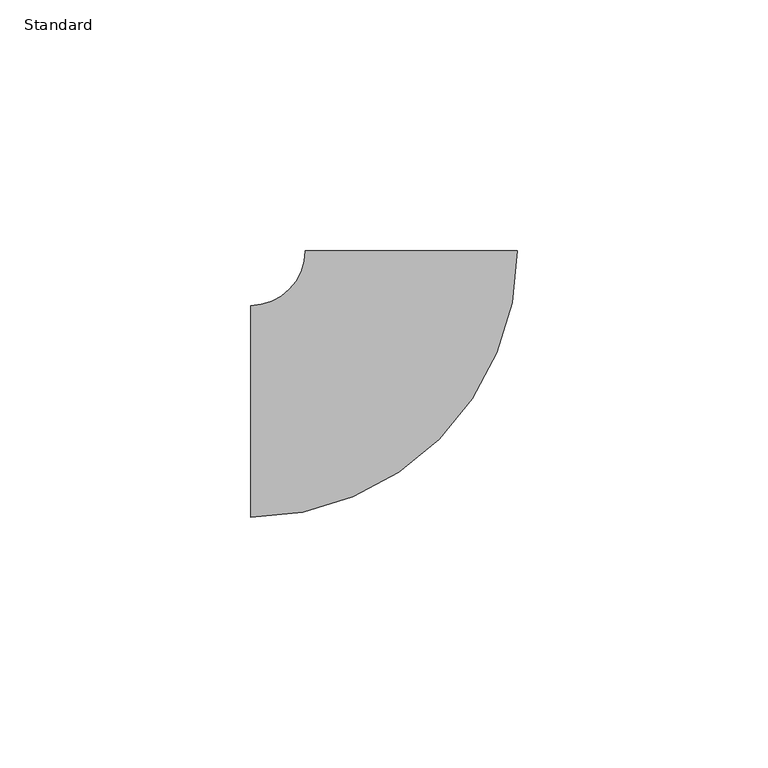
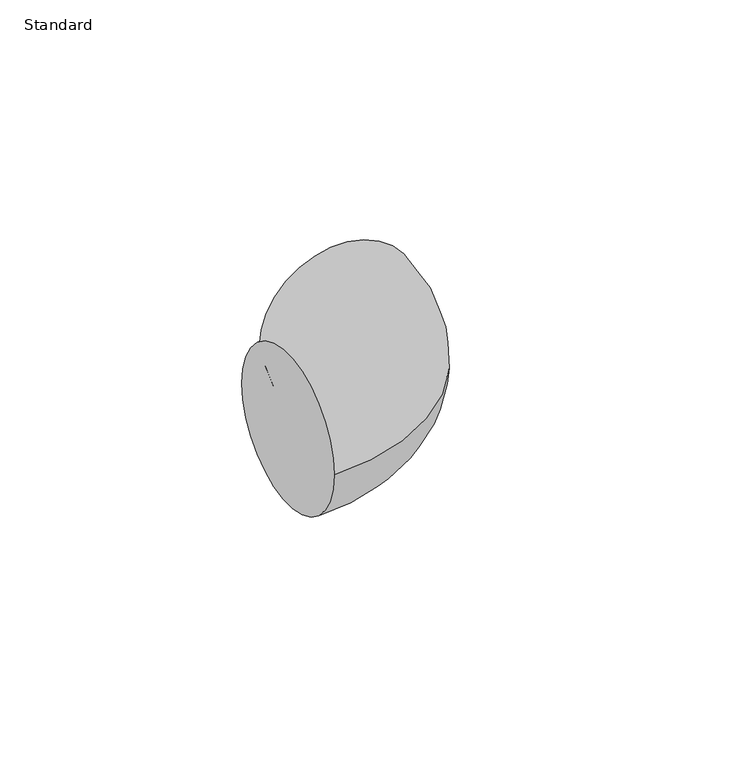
"""IFC4 building model written with IfcOpenShell, lengths in millimetres: pipe fitting geometry, Coude - Générique : Standard."""

import ifcopenshell
import ifcopenshell.guid

model = None  # the IFC model being written
_history = None  # IfcOwnerHistory: only IFC2X3 demands one
_inside = {}  # id of a spatial element -> (the spatial element, [elements in it])
_under = {}  # id of a project, library or spatial element -> (it, [spatial elements below it])
_declared = {}  # id of a project -> (the project, [libraries it declares])
_typed = {}  # id of a type object -> (the type object, [elements of that type])
_made_of = {}  # id of a material, layer set ... -> (it, [elements and type objects made of it])


def new_model(schema):
    """Start an empty IFC model of exactly this schema.

    Asked for "IFC4X3", IfcOpenShell would pick the latest addendum, in which some entities
    have other attributes; the version numbers below select the first issue.
    IFC2X3 requires an IfcOwnerHistory on every rooted entity: one is made here for all.
    """
    global model, _history
    if schema == "IFC4X3":
        model = ifcopenshell.file(schema_version=(4, 3, 0, 0))
    else:
        model = ifcopenshell.file(schema=schema)
    _inside.clear()
    _under.clear()
    _declared.clear()
    _typed.clear()
    _made_of.clear()
    _history = None
    if model.schema == "IFC2X3":
        org = make("IfcOrganization", Name="unknown")
        user = make(
            "IfcPersonAndOrganization",
            ThePerson=make("IfcPerson", FamilyName="unknown"),
            TheOrganization=org,
        )
        app = make(
            "IfcApplication",
            ApplicationDeveloper=org,
            Version="unknown",
            ApplicationFullName="unknown",
            ApplicationIdentifier="unknown",
        )
        _history = make(
            "IfcOwnerHistory",
            OwningUser=user,
            OwningApplication=app,
            ChangeAction="ADDED",
            CreationDate=0,
        )
    return model


def make(cls, **values):
    """One entity of the class cls with the attributes given. An attribute that is None is left unset."""
    return model.create_entity(
        cls, **{name: value for name, value in values.items() if value is not None}
    )


def rooted(cls, **values):
    """An entity with a GlobalId (a new one), such as an element, a storey or a relation."""
    return make(cls, GlobalId=ifcopenshell.guid.new(), OwnerHistory=_history, **values)


def si_unit(unit_type, name, prefix=None):
    """IfcSIUnit, for example si_unit("LENGTHUNIT", "METRE", prefix="MILLI")."""
    return make("IfcSIUnit", UnitType=unit_type, Prefix=prefix, Name=name)


def assignment(units):
    """IfcUnitAssignment: the units of a project."""
    return None if units is None else make("IfcUnitAssignment", Units=units)


def point(xyz):
    """IfcCartesianPoint."""
    return None if xyz is None else make("IfcCartesianPoint", Coordinates=xyz)


def direction(xyz):
    """IfcDirection."""
    return None if xyz is None else make("IfcDirection", DirectionRatios=xyz)


def frame(location, z_axis=None, x_axis=None):
    """IfcAxis2Placement3D, a coordinate frame: its origin and axes. An axis left out is left unset."""
    return make(
        "IfcAxis2Placement3D",
        Location=point(location),
        Axis=direction(z_axis),
        RefDirection=direction(x_axis),
    )


def origin():
    """The frame at (0, 0, 0) with its axes left unset."""
    return frame((0.0, 0.0, 0.0))


def place(relative_to, where):
    """IfcLocalPlacement: puts the frame where relative to a parent placement (None: the world)."""
    return make(
        "IfcLocalPlacement", PlacementRelTo=relative_to, RelativePlacement=where
    )


def context(
    kind, dimensions, precision=None, world=None, true_north=None, identifier=None
):
    """IfcGeometricRepresentationContext, for example the 3D "Model" context."""
    return make(
        "IfcGeometricRepresentationContext",
        ContextIdentifier=identifier,
        ContextType=kind,
        CoordinateSpaceDimension=dimensions,
        Precision=precision,
        WorldCoordinateSystem=world,
        TrueNorth=true_north,
    )


def project(units=None, contexts=None):
    """IfcProject with its units and contexts."""
    return rooted(
        "IfcProject",
        Name="project",
        RepresentationContexts=contexts,
        UnitsInContext=assignment(units),
    )


def spatial(cls, under=None, at=None, **own):
    """A site, building, storey or space (cls), placed at a placement, below another one or the project."""
    s = rooted(cls, ObjectPlacement=at, **own)
    if under is not None:
        _under.setdefault(under.id(), (under, []))[1].append(s)
    return s


def circle_curve(where, radius):
    """IfcCircle in the frame where."""
    return make("IfcCircle", Position=where, Radius=radius)


def ellipse_curve(where, semi_axis1, semi_axis2):
    """IfcEllipse in the frame where."""
    return make(
        "IfcEllipse", Position=where, SemiAxis1=semi_axis1, SemiAxis2=semi_axis2
    )


def trimmed(basis, trim1, trim2, sense, master):
    """IfcTrimmedCurve: the piece of a basis curve between two trims."""
    return make(
        "IfcTrimmedCurve",
        BasisCurve=basis,
        Trim1=trim1,
        Trim2=trim2,
        SenseAgreement=sense,
        MasterRepresentation=master,
    )


def shape(context_of_items, identifier, shape_type, items):
    """IfcShapeRepresentation: the items that make up one representation, for example the "Body"."""
    return make(
        "IfcShapeRepresentation",
        ContextOfItems=context_of_items,
        RepresentationIdentifier=identifier,
        RepresentationType=shape_type,
        Items=items,
    )


def source(mapping_origin, context_of_items, identifier, shape_type, items):
    """IfcRepresentationMap: a shape defined once, which mapped items show again and again."""
    return make(
        "IfcRepresentationMap",
        MappingOrigin=mapping_origin,
        MappedRepresentation=shape(context_of_items, identifier, shape_type, items),
    )


def transform(
    local_origin,
    x_axis=None,
    y_axis=None,
    z_axis=None,
    scale=None,
    scale2=None,
    scale3=None,
    uniform=True,
):
    """IfcCartesianTransformationOperator3D, or its non-uniform kind. x_axis, y_axis, z_axis: its Axis1, 2, 3."""
    if uniform:
        return make(
            "IfcCartesianTransformationOperator3D",
            Axis1=direction(x_axis),
            Axis2=direction(y_axis),
            LocalOrigin=point(local_origin),
            Scale=scale,
            Axis3=direction(z_axis),
        )
    return make(
        "IfcCartesianTransformationOperator3DnonUniform",
        Axis1=direction(x_axis),
        Axis2=direction(y_axis),
        LocalOrigin=point(local_origin),
        Scale=scale,
        Axis3=direction(z_axis),
        Scale2=scale2,
        Scale3=scale3,
    )


def mapped(mapping_source, mapping_target):
    """IfcMappedItem: shows the shape of a source again, moved by a transform."""
    return make(
        "IfcMappedItem", MappingSource=mapping_source, MappingTarget=mapping_target
    )


def made_of(thing, what):
    """Note that an element or type object is made of a material, layer set ...; save() writes the relation."""
    if what is not None:
        _made_of.setdefault(what.id(), (what, []))[1].append(thing)
    return thing


def element(
    cls,
    number,
    at=None,
    inside=None,
    cuts=None,
    type_object=None,
    material=None,
    context=None,
    identifier="Body",
    shape_type=None,
    held_by="IfcProductDefinitionShape",
    body=None,
    shapes=None,
    **own,
):
    """One element of the class cls, such as IfcWall. Its Tag is "e" and its number.

    at: its placement. inside: the storey or other place that contains it. cuts: it is an
    opening in that element (IfcRelVoidsElement). A single representation is given by context,
    identifier, shape_type and body (its items); several are given by shapes. held_by: the class
    of the entity that holds the representations. save() writes the other relations.
    """
    e = rooted(cls, Tag="e%d" % number, ObjectPlacement=at, **own)
    if body is not None:
        shapes = [shape(context, identifier, shape_type, body)]
    if shapes is not None:
        e.Representation = make(held_by, Representations=shapes)
    if inside is not None:
        _inside.setdefault(inside.id(), (inside, []))[1].append(e)
    if cuts is not None:
        rooted(
            "IfcRelVoidsElement", RelatingBuildingElement=cuts, RelatedOpeningElement=e
        )
    if type_object is not None:
        _typed.setdefault(type_object.id(), (type_object, []))[1].append(e)
    return made_of(e, material)


def aggregate(whole, parts):
    """IfcRelAggregates: a whole, such as a stair, and the parts it consists of."""
    return rooted("IfcRelAggregates", RelatingObject=whole, RelatedObjects=parts)


def save(model, path):
    """Write the relations noted so far, then the file.

    IfcRelAggregates (storeys below a building ...), IfcRelContainedInSpatialStructure (elements
    in a storey), IfcRelDefinesByType, IfcRelAssociatesMaterial and IfcRelDeclares: one each for
    every whole, place, type object, material and project.
    """
    for whole, parts in _under.values():
        aggregate(whole, parts)
    for where, things in _inside.values():
        rooted(
            "IfcRelContainedInSpatialStructure",
            RelatedElements=things,
            RelatingStructure=where,
        )
    for kind, things in _typed.values():
        rooted("IfcRelDefinesByType", RelatedObjects=things, RelatingType=kind)
    for what, things in _made_of.values():
        rooted("IfcRelAssociatesMaterial", RelatedObjects=things, RelatingMaterial=what)
    for by, libraries in _declared.values():
        rooted("IfcRelDeclares", RelatingContext=by, RelatedDefinitions=libraries)
    model.write(path)


def plane_surface(at):
    """IfcPlane: the flat surface through the origin of the frame at, square to its z axis."""
    return make("IfcPlane", Position=at)


def revolved_surface(curve, axis_point, axis_direction):
    """IfcSurfaceOfRevolution: the curve turned about the line through axis_point along axis_direction."""
    return make(
        "IfcSurfaceOfRevolution",
        SweptCurve=make("IfcArbitraryOpenProfileDef", ProfileType="CURVE", Curve=curve),
        AxisPosition=make("IfcAxis1Placement", Location=point(axis_point), Axis=direction(axis_direction)),
    )


def advanced_brep(points, edges, surfaces, faces):
    """IfcAdvancedBrep: a solid bounded by faces that lie on surfaces and meet in shared edges.

    An edge is (start, end): straight between two places in points (the first is 0);
    or (start, end, curve); or (start, end, curve, False) where it runs against its curve.
    A face is (place in surfaces, loops), or (place, loops, False) where it looks against
    its surface's normal. A loop lists edges by number (the first is 1), with a minus sign
    where the edge is run from its end to its start. The first loop is the outer one.
    """
    corners = [point(p) for p in points]
    vertices = [make("IfcVertexPoint", VertexGeometry=c) for c in corners]
    made = []
    for start, end, *more in edges:
        made.append(
            make(
                "IfcEdgeCurve",
                EdgeStart=vertices[start],
                EdgeEnd=vertices[end],
                EdgeGeometry=more[0] if more else make("IfcPolyline", Points=[corners[start], corners[end]]),
                SameSense=more[1] if len(more) > 1 else True,
            )
        )
    hull = []
    for where, loops, *sense in faces:
        bounds = []
        for j, loop in enumerate(loops):
            ring = [make("IfcOrientedEdge", EdgeElement=made[abs(k) - 1], Orientation=k > 0) for k in loop]
            bounds.append(
                make(
                    "IfcFaceOuterBound" if j == 0 else "IfcFaceBound",
                    Bound=make("IfcEdgeLoop", EdgeList=ring),
                    Orientation=True,
                )
            )
        hull.append(make("IfcAdvancedFace", Bounds=bounds, FaceSurface=surfaces[where], SameSense=sense[0] if sense else True))
    return make("IfcAdvancedBrep", Outer=make("IfcClosedShell", CfsFaces=hull))


def standard_5c68acb1(model_context):
    return source(origin(), model_context, "Body", "AdvancedBrep", [
        advanced_brep(
        [(-32.0, -21.1, 0.0), (-32.0, 21.1, 0.0), (21.1023863, 31.9984264, 0.0), (-21.0976135, 32.0015734, 0.0)],
        [
            (0, 1, circle_curve(frame((-32.0, 0.0, 0.0), z_axis=(-1.0, 0.0, 0.0), x_axis=(0.0, 1.0, 0.0)), 21.1)),
            (1, 0, circle_curve(frame((-32.0, 0.0, 0.0), z_axis=(-1.0, 0.0, 0.0), x_axis=(0.0, 1.0, 0.0)), 21.1)),
            (2, 3, circle_curve(frame((0.0023864, 31.9999999, 0.0), z_axis=(7.457488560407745e-05, 0.9999999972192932, 0.0), x_axis=(-0.9999999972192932, 7.457488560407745e-05, 0.0)), 21.1)),
            (3, 2, circle_curve(frame((0.0023864, 31.9999999, 0.0), z_axis=(7.457488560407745e-05, 0.9999999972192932, 0.0), x_axis=(-0.9999999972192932, 7.457488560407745e-05, 0.0)), 21.1)),
            (3, 1, circle_curve(frame((-32.0, 32.0023865, 0.0), z_axis=(0.0, 0.0, -1.0), x_axis=(0.0, -1.0, 0.0)), 10.9023865)),
            (0, 2, circle_curve(frame((-32.0, 32.0023865, 0.0), z_axis=(0.0, 0.0, 1.0), x_axis=(0.0, -1.0, 0.0)), 53.1023865)),
        ],
        [
            plane_surface(frame((-32.0, 0.0, 0.0), z_axis=(-1.0, 0.0, 0.0), x_axis=(0.0, 0.0, 1.0))),
            plane_surface(frame((0.0023864, 31.9999999, 0.0), z_axis=(7.45748856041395e-05, 0.9999999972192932, 0.0), x_axis=(0.0, 0.0, 1.0))),
            revolved_surface(trimmed(ellipse_curve(frame((-32.0, 0.0, 0.0), z_axis=(-1.0, 0.0, 0.0), x_axis=(0.0, 1.0, 0.0)), 21.1, 21.1), [point((-32.0, -21.1, 0.0))], [point((-32.0, 21.1, 0.0))], True, "CARTESIAN"), (-32.0, 32.0023865, 0.0), (0.0, 0.0, 1.0)),
            revolved_surface(trimmed(ellipse_curve(frame((-32.0, 0.0, 0.0), z_axis=(-1.0, 0.0, 0.0), x_axis=(0.0, 1.0, 0.0)), 21.1, 21.1), [point((-32.0, 21.1, 0.0))], [point((-32.0, -21.1, 0.0))], True, "CARTESIAN"), (-32.0, 32.0023865, 0.0), (0.0, 0.0, 1.0)),
        ],
        [
            (0, [[1, 2]]),
            (1, [[3, 4]]),
            (2, [[5, -1, 6, -4]]),
            (3, [[-6, -2, -5, -3]]),
        ],
    ),
    ])


if __name__ == "__main__":
    model = new_model("IFC4")
    model_context = context("Model", 3, world=origin())
    ifc_project = project(units=[si_unit("LENGTHUNIT", "METRE", prefix="MILLI")], contexts=[model_context])
    site = spatial("IfcSite", under=ifc_project)
    building = spatial("IfcBuilding", under=site)
    placement = place(None, origin())
    standard_shape = standard_5c68acb1(model_context)
    element("IfcPipeFitting", 1, ObjectType="Coude - Générique : Standard", at=placement, inside=building, context=model_context, shape_type="MappedRepresentation", body=[
        mapped(standard_shape, transform((0.0, 0.0, 0.0), x_axis=(1.0, 0.0, 0.0), y_axis=(0.0, 1.0, 0.0), z_axis=(0.0, 0.0, 1.0))),
    ])
    save(model, "model.ifc")
